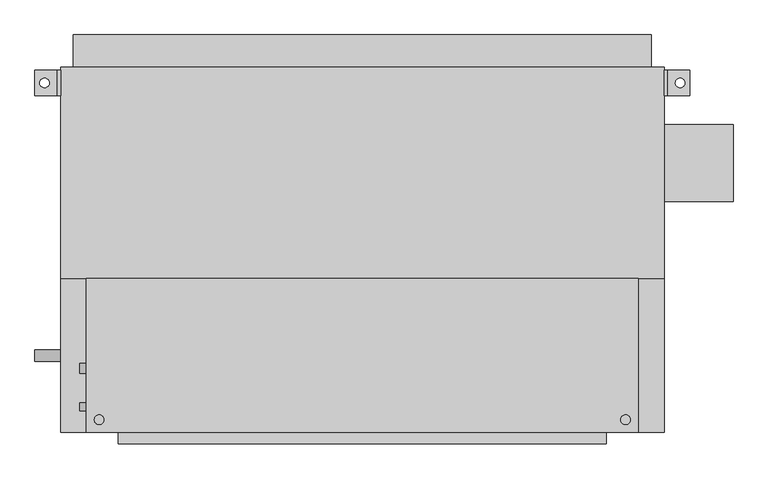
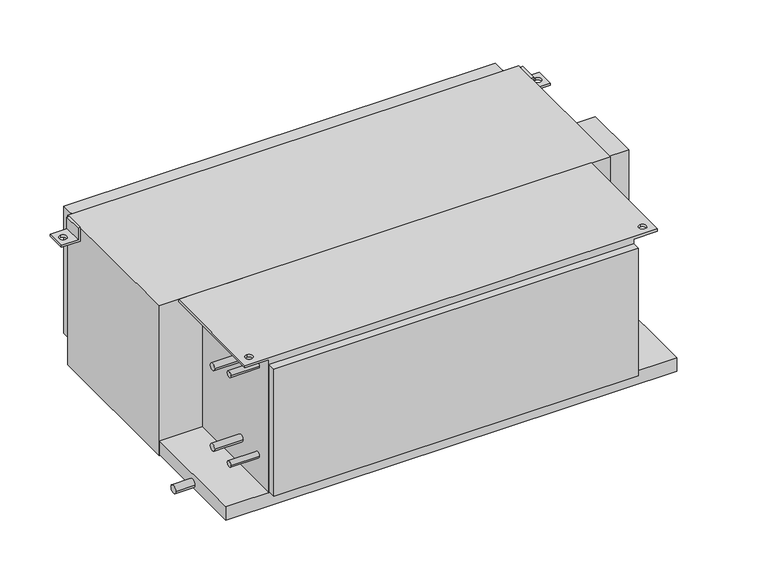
"""IFC4 building model written with IfcOpenShell, lengths in millimetres: proxy geometry, Concealed_High_Capacity_Horizontal_Fan_Coil_Unit_With_Plenum_-_42DCA_-_CARRIER_-_4-Pipe_LH_2022 : Size 16 - 277v/60Hz/1Ph - 6/2 Coil."""

from ifc_helpers import new_model, si_unit, point, frame, frame_2d, origin, place, context, project, spatial, polyline, circle_curve, trimmed, segment, composite_curve, outline, extrude, source, transform, mapped, element, save
from ifc_brep_helpers import plane_surface, revolved_surface, advanced_brep


def mechanical_equipment_d44dfcbe(model_context):
    return source(origin(), model_context, "Body", "SolidModel", [
        advanced_brep(
        [(-393.7, -85.725, 0.0), (-393.7, -390.525, 0.0), (698.5, -390.525, 0.0), (698.5, -85.725, 0.0), (-368.3, -374.65, 0.0), (-368.3, -355.6, 0.0), (673.1, -374.65, 0.0), (673.1, -355.6, 0.0), (635.0, -85.725, -377.825), (635.0, -390.525, -377.825), (-330.2, -390.525, -377.825), (-330.2, -85.725, -377.825), (-330.2, -85.725, -6.35), (-393.7, -85.725, -6.35), (698.5, -85.725, -6.35), (635.0, -85.725, -6.35), (-330.2, -390.525, -6.35), (635.0, -390.525, -6.35), (698.5, -390.525, -6.35), (-393.7, -390.525, -6.35), (-368.3, -355.6, -6.35), (-368.3, -374.65, -6.35), (673.1, -355.6, -6.35), (673.1, -374.65, -6.35)],
        [
            (0, 1),
            (1, 2),
            (2, 3),
            (3, 0),
            (4, 5, circle_curve(frame((-368.3, -365.125, 0.0), z_axis=(0.0, 0.0, -1.0), x_axis=(0.0, 1.0, 0.0)), 9.525)),
            (5, 4, circle_curve(frame((-368.3, -365.125, 0.0), z_axis=(0.0, 0.0, -1.0), x_axis=(0.0, 1.0, 0.0)), 9.525)),
            (6, 7, circle_curve(frame((673.1, -365.125, 0.0), z_axis=(0.0, 0.0, -1.0), x_axis=(0.0, 1.0, 0.0)), 9.525)),
            (7, 6, circle_curve(frame((673.1, -365.125, 0.0), z_axis=(0.0, 0.0, -1.0), x_axis=(0.0, 1.0, 0.0)), 9.525)),
            (8, 9),
            (9, 10),
            (10, 11),
            (11, 8),
            (11, 12),
            (12, 13),
            (13, 0),
            (3, 14),
            (14, 15),
            (15, 8),
            (10, 16),
            (16, 12),
            (9, 17),
            (17, 18),
            (18, 2),
            (1, 19),
            (19, 16),
            (15, 17),
            (19, 13),
            (20, 21, circle_curve(frame((-368.3, -365.125, -6.35), z_axis=(0.0, 0.0, 1.0), x_axis=(0.0, 1.0, 0.0)), 9.525)),
            (21, 20, circle_curve(frame((-368.3, -365.125, -6.35), z_axis=(0.0, 0.0, 1.0), x_axis=(0.0, 1.0, 0.0)), 9.525)),
            (14, 18),
            (22, 23, circle_curve(frame((673.1, -365.125, -6.35), z_axis=(0.0, 0.0, 1.0), x_axis=(0.0, 1.0, 0.0)), 9.525)),
            (23, 22, circle_curve(frame((673.1, -365.125, -6.35), z_axis=(0.0, 0.0, 1.0), x_axis=(0.0, 1.0, 0.0)), 9.525)),
            (4, 21),
            (20, 5),
            (6, 23),
            (22, 7),
        ],
        [
            plane_surface(frame((-330.2, -85.725, 0.0), z_axis=(0.0, 0.0, 1.0), x_axis=(-1.0, 0.0, 0.0))),
            plane_surface(frame((-330.2, -85.725, -377.825), z_axis=(0.0, 0.0, -1.0), x_axis=(1.0, 0.0, 0.0))),
            plane_surface(frame((635.0, -85.725, 0.0), z_axis=(0.0, 1.0, 0.0), x_axis=(0.0, 0.0, -1.0))),
            plane_surface(frame((-330.2, -85.725, 0.0), z_axis=(-1.0, 0.0, 0.0), x_axis=(0.0, 0.0, -1.0))),
            plane_surface(frame((-330.2, -390.525, 0.0), z_axis=(0.0, -1.0, 0.0), x_axis=(0.0, 0.0, -1.0))),
            plane_surface(frame((635.0, -390.525, 0.0), z_axis=(1.0, 0.0, 0.0), x_axis=(0.0, 0.0, -1.0))),
            plane_surface(frame((-393.7, -85.725, -6.35), z_axis=(0.0, 0.0, -1.0), x_axis=(0.0, 1.0, 0.0))),
            plane_surface(frame((-393.7, -85.725, 0.0), z_axis=(-1.0, 0.0, 0.0), x_axis=(0.0, 0.0, -1.0))),
            plane_surface(frame((698.5, -390.525, 0.0), z_axis=(1.0, 0.0, 0.0), x_axis=(0.0, 0.0, -1.0))),
            revolved_surface(polyline([(-368.3, -355.6, -6.35), (-368.3, -355.6, 0.0)]), (-368.3, -365.125, 0.0), (0.0, 0.0, -1.0)),
            revolved_surface(polyline([(673.1, -355.6, -6.35), (673.1, -355.6, 0.0)]), (673.1, -365.125, 0.0), (0.0, 0.0, -1.0)),
        ],
        [
            (0, [[1, 2, 3, 4], [5, 6], [7, 8]]),
            (1, [[9, 10, 11, 12]]),
            (2, [[-12, 13, 14, 15, -4, 16, 17, 18]]),
            (3, [[-11, 19, 20, -13]]),
            (4, [[-10, 21, 22, 23, -2, 24, 25, -19]]),
            (5, [[-9, -18, 26, -21]]),
            (6, [[-14, -20, -25, 27], [28, 29]]),
            (6, [[30, -22, -26, -17], [31, 32]]),
            (7, [[-27, -24, -1, -15]]),
            (8, [[-30, -16, -3, -23]]),
            (9, [[33, -28, 34, -5]]),
            (9, [[-33, -6, -34, -29]]),
            (10, [[35, -31, 36, -7]]),
            (10, [[-35, -8, -36, -32]]),
        ],
    ),
        advanced_brep(
        [(-444.5, 327.025, -38.1), (-495.3, 327.025, -38.1), (-495.3, 327.025, -31.75), (-450.85, 327.025, -31.75), (-450.85, 327.025, 0.0), (-444.5, 327.025, 0.0), (-444.5, 276.225, -38.1), (-444.5, 276.225, 0.0), (-450.85, 276.225, 0.0), (-450.85, 276.225, -31.75), (-495.3, 276.225, -31.75), (-495.3, 276.225, -38.1), (-476.25, 292.1, -38.1), (-476.25, 311.15, -38.1), (-476.25, 311.15, -31.75), (-476.25, 292.1, -31.75)],
        [
            (0, 1),
            (1, 2),
            (2, 3),
            (3, 4),
            (4, 5),
            (5, 0),
            (6, 7),
            (7, 8),
            (8, 9),
            (9, 10),
            (10, 11),
            (11, 6),
            (0, 6),
            (11, 1),
            (12, 13, circle_curve(frame((-476.25, 301.625, -38.1), z_axis=(0.0, 0.0, 1.0), x_axis=(0.0, -1.0, 0.0)), 9.525)),
            (13, 12, circle_curve(frame((-476.25, 301.625, -38.1), z_axis=(0.0, 0.0, 1.0), x_axis=(0.0, -1.0, 0.0)), 9.525)),
            (10, 2),
            (9, 3),
            (14, 15, circle_curve(frame((-476.25, 301.625, -31.75), z_axis=(0.0, 0.0, -1.0), x_axis=(0.0, -1.0, 0.0)), 9.525)),
            (15, 14, circle_curve(frame((-476.25, 301.625, -31.75), z_axis=(0.0, 0.0, -1.0), x_axis=(0.0, -1.0, 0.0)), 9.525)),
            (8, 4),
            (7, 5),
            (14, 13),
            (12, 15),
        ],
        [
            plane_surface(frame((-444.5, 327.025, -38.1), z_axis=(0.0, 1.0, 0.0), x_axis=(-1.0, 0.0, 0.0))),
            plane_surface(frame((-444.5, 276.225, -38.1), z_axis=(0.0, -1.0, 0.0), x_axis=(1.0, 0.0, 0.0))),
            plane_surface(frame((-444.5, 327.025, -38.1), z_axis=(0.0, 0.0, -1.0), x_axis=(0.0, -1.0, 0.0))),
            plane_surface(frame((-495.3, 327.025, -38.1), z_axis=(-1.0, 0.0, 0.0), x_axis=(0.0, -1.0, 0.0))),
            plane_surface(frame((-495.3, 327.025, -31.75), z_axis=(0.0, 0.0, 1.0), x_axis=(0.0, -1.0, 0.0))),
            plane_surface(frame((-450.85, 327.025, -31.75), z_axis=(-1.0, 0.0, 0.0), x_axis=(0.0, -1.0, 0.0))),
            plane_surface(frame((-450.85, 327.025, 0.0), z_axis=(0.0, 0.0, 1.0), x_axis=(0.0, -1.0, 0.0))),
            plane_surface(frame((-444.5, 327.025, 0.0), z_axis=(1.0, 0.0, 0.0), x_axis=(0.0, -1.0, 0.0))),
            revolved_surface(polyline([(-476.25, 292.1, -38.1), (-476.25, 292.1, -31.75)]), (-476.25, 301.625, -31.75), (0.0, 0.0, -1.0)),
        ],
        [
            (0, [[1, 2, 3, 4, 5, 6]]),
            (1, [[7, 8, 9, 10, 11, 12]]),
            (2, [[-1, 13, -12, 14], [15, 16]]),
            (3, [[-2, -14, -11, 17]]),
            (4, [[-3, -17, -10, 18], [19, 20]]),
            (5, [[-4, -18, -9, 21]]),
            (6, [[-5, -21, -8, 22]]),
            (7, [[-6, -22, -7, -13]]),
            (8, [[23, -15, 24, -19]]),
            (8, [[-23, -20, -24, -16]]),
        ],
    ),
        advanced_brep(
        [(749.3, 327.025, -38.1), (749.3, 327.025, 0.0), (755.65, 327.025, 0.0), (755.65, 327.025, -31.75), (800.1, 327.025, -31.75), (800.1, 327.025, -38.1), (749.3, 276.225, -38.1), (800.1, 276.225, -38.1), (800.1, 276.225, -31.75), (755.65, 276.225, -31.75), (755.65, 276.225, 0.0), (749.3, 276.225, 0.0), (781.05, 311.15, -31.75), (781.05, 292.1, -31.75), (781.05, 292.1, -38.1), (781.05, 311.15, -38.1)],
        [
            (0, 1),
            (1, 2),
            (2, 3),
            (3, 4),
            (4, 5),
            (5, 0),
            (6, 7),
            (7, 8),
            (8, 9),
            (9, 10),
            (10, 11),
            (11, 6),
            (0, 6),
            (11, 1),
            (10, 2),
            (9, 3),
            (8, 4),
            (12, 13, circle_curve(frame((781.05, 301.625, -31.75), z_axis=(0.0, 0.0, -1.0), x_axis=(0.0, -1.0, 0.0)), 9.525)),
            (13, 12, circle_curve(frame((781.05, 301.625, -31.75), z_axis=(0.0, 0.0, -1.0), x_axis=(0.0, -1.0, 0.0)), 9.525)),
            (7, 5),
            (14, 15, circle_curve(frame((781.05, 301.625, -38.1), z_axis=(0.0, 0.0, 1.0), x_axis=(0.0, -1.0, 0.0)), 9.525)),
            (15, 14, circle_curve(frame((781.05, 301.625, -38.1), z_axis=(0.0, 0.0, 1.0), x_axis=(0.0, -1.0, 0.0)), 9.525)),
            (12, 15),
            (14, 13),
        ],
        [
            plane_surface(frame((-444.5, 327.025, -38.1), z_axis=(0.0, 1.0, 0.0), x_axis=(-1.0, 0.0, 0.0))),
            plane_surface(frame((-444.5, 276.225, -38.1), z_axis=(0.0, -1.0, 0.0), x_axis=(1.0, 0.0, 0.0))),
            plane_surface(frame((749.3, 327.025, -38.1), z_axis=(-1.0, 0.0, 0.0), x_axis=(0.0, -1.0, 0.0))),
            plane_surface(frame((749.3, 327.025, 0.0), z_axis=(0.0, 0.0, 1.0), x_axis=(0.0, -1.0, 0.0))),
            plane_surface(frame((755.65, 327.025, 0.0), z_axis=(1.0, 0.0, 0.0), x_axis=(0.0, -1.0, 0.0))),
            plane_surface(frame((755.65, 327.025, -31.75), z_axis=(0.0, 0.0, 1.0), x_axis=(0.0, -1.0, 0.0))),
            plane_surface(frame((800.1, 327.025, -31.75), z_axis=(1.0, 0.0, 0.0), x_axis=(0.0, -1.0, 0.0))),
            plane_surface(frame((800.1, 327.025, -38.1), z_axis=(0.0, 0.0, -1.0), x_axis=(0.0, -1.0, 0.0))),
            revolved_surface(polyline([(781.05, 292.1, -38.1), (781.05, 292.1, -31.75)]), (781.05, 301.625, -31.75), (0.0, 0.0, -1.0)),
        ],
        [
            (0, [[1, 2, 3, 4, 5, 6]]),
            (1, [[7, 8, 9, 10, 11, 12]]),
            (2, [[-1, 13, -12, 14]]),
            (3, [[-2, -14, -11, 15]]),
            (4, [[-3, -15, -10, 16]]),
            (5, [[-4, -16, -9, 17], [18, 19]]),
            (6, [[-5, -17, -8, 20]]),
            (7, [[-6, -20, -7, -13], [21, 22]]),
            (8, [[23, -21, 24, -18]]),
            (8, [[-23, -19, -24, -22]]),
        ],
    ),
        extrude(outline(polyline([(-419.1, 396.875), (723.9, 396.875), (723.9, 333.375), (-419.1, 333.375), (-419.1, 396.875)])), frame((0.0, 0.0, -377.825), z_axis=(0.0, 0.0, 1.0), x_axis=(1.0, 0.0, 0.0)), (0.0, 0.0, 1.0), 355.6),
        extrude(outline(composite_curve([segment(trimmed(circle_curve(frame_2d((-263.525, -76.2)), 9.525), [point((-273.05, -76.2))], [point((-254.0, -76.2))], False, "CARTESIAN"), True, "CONTINUOUS"), segment(trimmed(circle_curve(frame_2d((-263.525, -76.2)), 9.525), [point((-254.0, -76.2))], [point((-273.05, -76.2))], False, "CARTESIAN"), True, "CONTINUOUS")], self_intersect=False)), frame((-406.4, 0.0, 0.0), z_axis=(1.0, 0.0, 0.0), x_axis=(0.0, 1.0, 0.0)), (0.0, 0.0, 1.0), 76.2),
        extrude(outline(composite_curve([segment(trimmed(circle_curve(frame_2d((-263.525, -301.625)), 9.525), [point((-273.05, -301.625))], [point((-254.0, -301.625))], False, "CARTESIAN"), True, "CONTINUOUS"), segment(trimmed(circle_curve(frame_2d((-263.525, -301.625)), 9.525), [point((-254.0, -301.625))], [point((-273.05, -301.625))], False, "CARTESIAN"), True, "CONTINUOUS")], self_intersect=False)), frame((-406.4, 0.0, 0.0), z_axis=(1.0, 0.0, 0.0), x_axis=(0.0, 1.0, 0.0)), (0.0, 0.0, 1.0), 76.2),
        extrude(outline(composite_curve([segment(trimmed(circle_curve(frame_2d((-339.725, -50.8)), 7.9375), [point((-347.6625, -50.8))], [point((-331.7875, -50.8))], False, "CARTESIAN"), True, "CONTINUOUS"), segment(trimmed(circle_curve(frame_2d((-339.725, -50.8)), 7.9375), [point((-331.7875, -50.8))], [point((-347.6625, -50.8))], False, "CARTESIAN"), True, "CONTINUOUS")], self_intersect=False)), frame((-406.4, 0.0, 0.0), z_axis=(1.0, 0.0, 0.0), x_axis=(0.0, 1.0, 0.0)), (0.0, 0.0, 1.0), 76.2),
        extrude(outline(composite_curve([segment(trimmed(circle_curve(frame_2d((-339.725, -301.625)), 7.9375), [point((-347.6625, -301.625))], [point((-331.7875, -301.625))], False, "CARTESIAN"), True, "CONTINUOUS"), segment(trimmed(circle_curve(frame_2d((-339.725, -301.625)), 7.9375), [point((-331.7875, -301.625))], [point((-347.6625, -301.625))], False, "CARTESIAN"), True, "CONTINUOUS")], self_intersect=False)), frame((-406.4, 0.0, 0.0), z_axis=(1.0, 0.0, 0.0), x_axis=(0.0, 1.0, 0.0)), (0.0, 0.0, 1.0), 76.2),
        extrude(outline(composite_curve([segment(trimmed(circle_curve(frame_2d((-238.125, -403.225)), 11.1125), [point((-249.2375, -403.225))], [point((-227.0125, -403.225))], False, "CARTESIAN"), True, "CONTINUOUS"), segment(trimmed(circle_curve(frame_2d((-238.125, -403.225)), 11.1125), [point((-227.0125, -403.225))], [point((-249.2375, -403.225))], False, "CARTESIAN"), True, "CONTINUOUS")], self_intersect=False)), frame((-495.3, 0.0, 0.0), z_axis=(1.0, 0.0, 0.0), x_axis=(0.0, 1.0, 0.0)), (0.0, 0.0, 1.0), 50.8),
        extrude(outline(polyline([(885.825, 219.075), (885.825, 66.675), (749.3, 66.675), (749.3, 219.075), (885.825, 219.075)])), frame((0.0, 0.0, -273.05), z_axis=(0.0, 0.0, 1.0), x_axis=(1.0, 0.0, 0.0)), (0.0, 0.0, 1.0), 152.4),
        extrude(outline(polyline([(635.0, -412.75), (-330.2, -412.75), (-330.2, -390.525), (635.0, -390.525), (635.0, -412.75)])), frame((0.0, 0.0, -374.65), z_axis=(0.0, 0.0, 1.0), x_axis=(1.0, 0.0, 0.0)), (0.0, 0.0, 1.0), 355.6),
        extrude(outline(polyline([(749.3, -85.725), (-444.5, -85.725), (-444.5, 333.375), (749.3, 333.375), (749.3, -85.725)])), frame((0.0, 0.0, -419.1), z_axis=(0.0, 0.0, 1.0), x_axis=(1.0, 0.0, 0.0)), (0.0, 0.0, 1.0), 419.1),
        extrude(outline(polyline([(749.3, -85.725), (749.3, -390.525), (-444.5, -390.525), (-444.5, -85.725), (749.3, -85.725)])), frame((0.0, 0.0, -415.925), z_axis=(0.0, 0.0, 1.0), x_axis=(1.0, 0.0, 0.0)), (0.0, 0.0, 1.0), 38.1),
    ])


if __name__ == "__main__":
    model = new_model("IFC4")
    model_context = context("Model", 3, world=origin())
    ifc_project = project(units=[si_unit("LENGTHUNIT", "METRE", prefix="MILLI")], contexts=[model_context])
    site = spatial("IfcSite", under=ifc_project)
    building = spatial("IfcBuilding", under=site)
    placement = place(None, origin())
    mechanical_equipment_shape = mechanical_equipment_d44dfcbe(model_context)
    element("IfcBuildingElementProxy", 1, Name="Concealed_High_Capacity_Horizontal_Fan_Coil_Unit_With_Plenum_-_42DCA_-_CARRIER_-_4-Pipe_LH_2022 : Size 16 - 277v/60Hz/1Ph - 6/2 Coil", ObjectType="Concealed_High_Capacity_Horizontal_Fan_Coil_Unit_With_Plenum_-_42DCA_-_CARRIER_-_4-Pipe_LH_2022 : Size 16 - 277v/60Hz/1Ph - 6/2 Coil", at=placement, inside=building, context=model_context, shape_type="MappedRepresentation", body=[
        mapped(mechanical_equipment_shape, transform((0.0, 0.0, 0.0), x_axis=(1.0, 0.0, 0.0), y_axis=(0.0, 1.0, 0.0), z_axis=(0.0, 0.0, 1.0))),
    ])
    save(model, "model.ifc")
